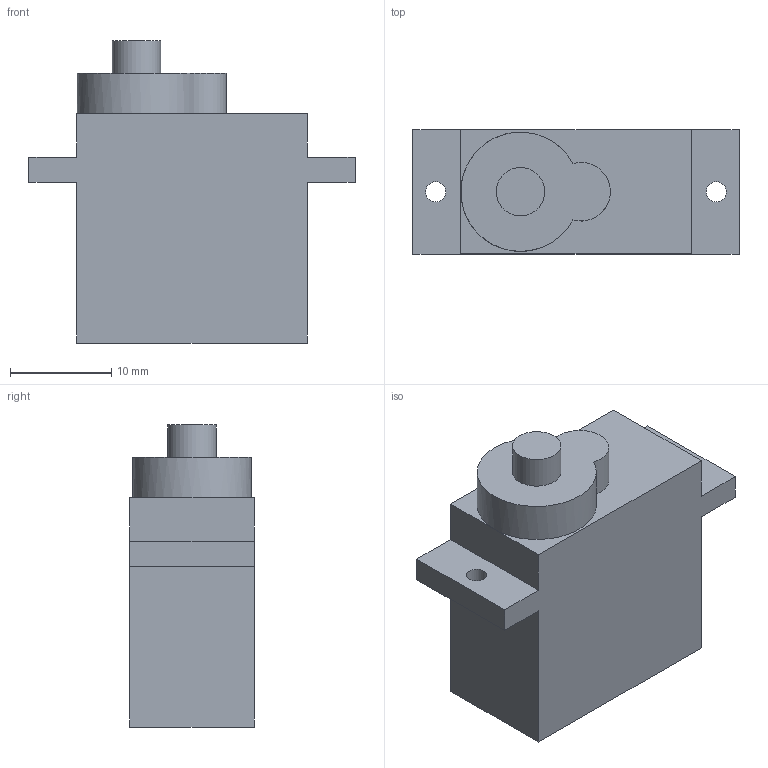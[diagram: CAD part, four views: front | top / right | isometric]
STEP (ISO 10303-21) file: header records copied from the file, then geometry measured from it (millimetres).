
FILE_DESCRIPTION(('FreeCAD Model'),'2;1');
FILE_NAME('Open CASCADE Shape Model','2026-11-08T20:38:39',('FreeCAD'),( 'FreeCAD'),'Open CASCADE STEP processor 7.8','FreeCAD','Unknown');
FILE_SCHEMA(('AUTOMOTIVE_DESIGN { 1 0 10303 214 1 1 1 1 }'));
Length unit declared in the file: millimetre
Products named in the file (1): Open CASCADE STEP translator 7.8 10
Bounding box: 32.3 x 12.3 x 29.9 mm (x, y, z)
Volume: 7198.4 mm3; surface area: 2670.7 mm2
Topology: 1 solids, 1 shells, 21 faces, 55 edges, 37 vertices
Faces by surface type: plane 16, cylinder 5
Full cylindrical faces by diameter (mm): 2 x2, 4.8 x1
Entity records: 670 total; most frequent: CARTESIAN_POINT 114, DIRECTION 112, ORIENTED_EDGE 110, EDGE_CURVE 55, LINE 42, VECTOR 42, VERTEX_POINT 37, AXIS2_PLACEMENT_3D 35
